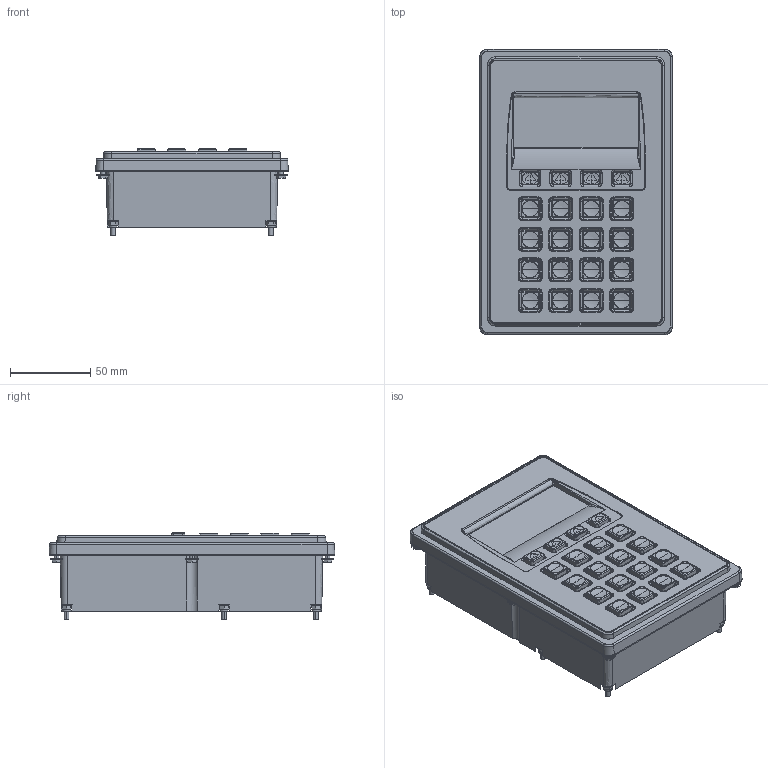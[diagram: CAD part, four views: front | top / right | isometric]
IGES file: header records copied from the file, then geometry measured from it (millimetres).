
Start section: SolidWorks IGES file using analytic representation for surfaces
Global section: file name: C:\Documents and Settings\tracys.STORMINTERFACE\Desktop\website models\FT_ASSY_SHORT~1.IGS; native system: SolidWorks 2006 by SolidWorks Corporation; preprocessor: SolidWorks 2006 by SolidWorks Corporation; author: tracys; date: 051031.094804; units: millimetre
Bounding box: 119.6 x 177.5 x 53.5 mm (x, y, z)
Surface area: 136441.3 mm2 (no closed solid volume)
Topology: 0 solids, 0 shells, 1624 faces, 16088 edges, 16066 vertices
Faces by surface type: bspline 947, revolution 677
